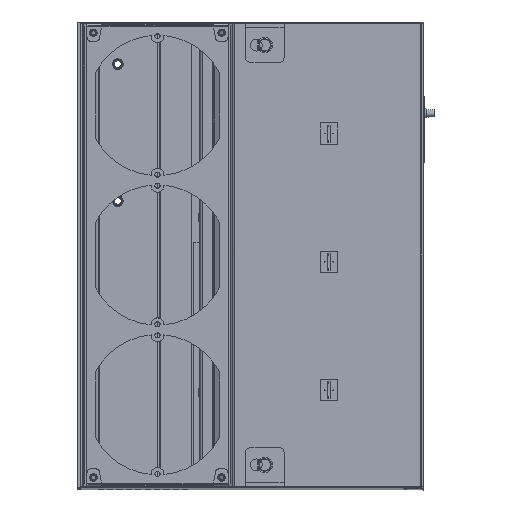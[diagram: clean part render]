
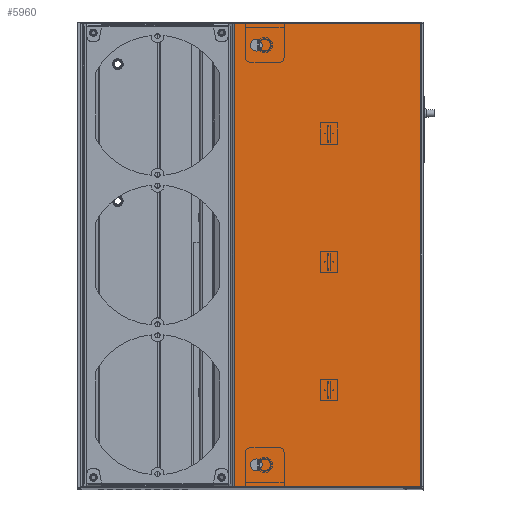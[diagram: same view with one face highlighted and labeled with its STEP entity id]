
A CAD part, top view. The second image highlights one B-rep face of the part: STEP entity #5960.
In plain terms, the highlighted planar face has unit normal (0, 0, 1) as drawn and (0, 0, -1) by its records, which use the part's own axes.
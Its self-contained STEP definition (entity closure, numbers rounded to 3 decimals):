
#5960=ADVANCED_FACE('',(#14699,#14701,#14703),#14705,.T.);
#14699=FACE_BOUND('',#14700,.T.);
#14700=EDGE_LOOP('',(#29474,#29475,#29476,#29477));
#14701=FACE_BOUND('',#14702,.T.);
#14702=EDGE_LOOP('',(#29478));
#14703=FACE_BOUND('',#14704,.T.);
#14704=EDGE_LOOP('',(#29479));
#14705=PLANE('',#14706);
#14706=AXIS2_PLACEMENT_3D('',#14707,#14708,#14709);
#14707=CARTESIAN_POINT('',(0.,34.084,-40.));
#14708=DIRECTION('',(0.,0.,-1.));
#14709=DIRECTION('',(0.,1.,0.));
#29474=ORIENTED_EDGE('',*,*,#37932,.T.);
#29475=ORIENTED_EDGE('',*,*,#37933,.T.);
#29476=ORIENTED_EDGE('',*,*,#37920,.T.);
#29477=ORIENTED_EDGE('',*,*,#37934,.T.);
#29478=ORIENTED_EDGE('',*,*,#37935,.T.);
#29479=ORIENTED_EDGE('',*,*,#37936,.T.);
#37920=EDGE_CURVE('',#44843,#44844,#44845,.T.);
#37932=EDGE_CURVE('',#44863,#44864,#44865,.T.);
#37933=EDGE_CURVE('',#44864,#44843,#44866,.T.);
#37934=EDGE_CURVE('',#44844,#44863,#44867,.T.);
#37935=EDGE_CURVE('',#44868,#44868,#44869,.F.);
#37936=EDGE_CURVE('',#44870,#44870,#44871,.F.);
#44843=VERTEX_POINT('',#59417);
#44844=VERTEX_POINT('',#59418);
#44845=LINE('',#59419,#59420);
#44863=VERTEX_POINT('',#59465);
#44864=VERTEX_POINT('',#59466);
#44865=LINE('',#59467,#59468);
#44866=LINE('',#59470,#59471);
#44867=LINE('',#59473,#59474);
#44868=VERTEX_POINT('',#59476);
#44869=CIRCLE('',#59477,7.);
#44870=VERTEX_POINT('',#59481);
#44871=CIRCLE('',#59482,7.);
#59417=CARTESIAN_POINT('',(-270.5,-2.5,-40.));
#59418=CARTESIAN_POINT('',(270.5,-2.5,-40.));
#59419=CARTESIAN_POINT('',(-270.5,-2.5,-40.));
#59420=VECTOR('',#59421,1.);
#59421=DIRECTION('',(1.,0.,0.));
#59465=CARTESIAN_POINT('',(270.5,-220.5,-40.));
#59466=CARTESIAN_POINT('',(-270.5,-220.5,-40.));
#59467=CARTESIAN_POINT('',(270.5,-220.5,-40.));
#59468=VECTOR('',#59469,1.);
#59469=DIRECTION('',(-1.,0.,0.));
#59470=CARTESIAN_POINT('',(-270.5,-220.5,-40.));
#59471=VECTOR('',#59472,1.);
#59472=DIRECTION('',(0.,1.,0.));
#59473=CARTESIAN_POINT('',(270.5,-2.5,-40.));
#59474=VECTOR('',#59475,1.);
#59475=DIRECTION('',(0.,-1.,0.));
#59476=CARTESIAN_POINT('',(238.5,-195.,-40.));
#59477=AXIS2_PLACEMENT_3D('',#59478,#59479,#59480);
#59478=CARTESIAN_POINT('',(245.5,-195.,-40.));
#59479=DIRECTION('',(0.,0.,-1.));
#59480=DIRECTION('',(-1.,0.,0.));
#59481=CARTESIAN_POINT('',(-252.5,-195.,-40.));
#59482=AXIS2_PLACEMENT_3D('',#59483,#59484,#59485);
#59483=CARTESIAN_POINT('',(-245.5,-195.,-40.));
#59484=DIRECTION('',(0.,0.,-1.));
#59485=DIRECTION('',(-1.,0.,0.));
